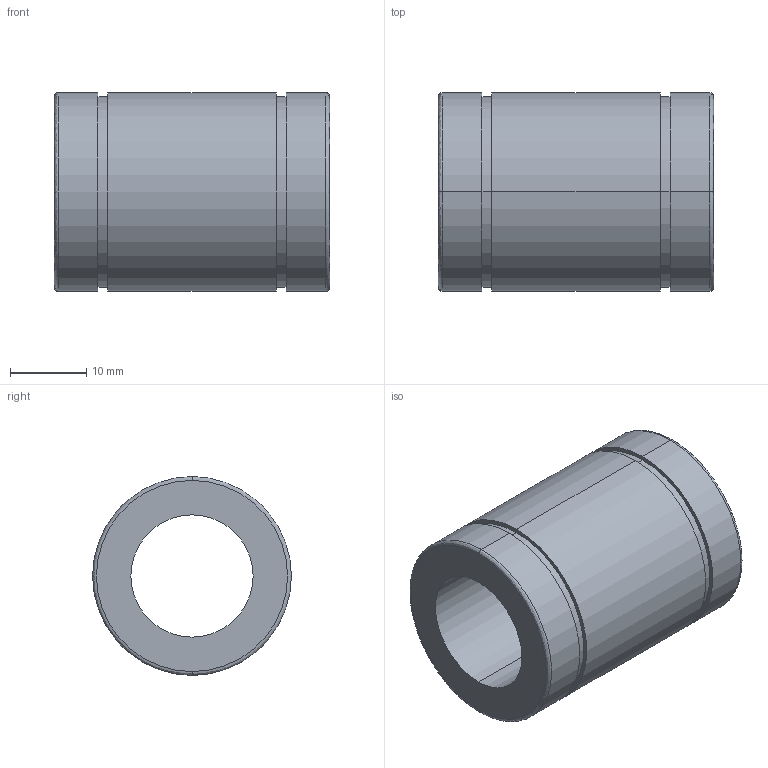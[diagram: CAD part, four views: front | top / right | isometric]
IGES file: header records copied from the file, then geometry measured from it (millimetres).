
Start section: 3D InterOp IGES (Version 21 0 1), Spatial Corp. Copyright (c) 1999-2007.
Global section: file name: SB-16.igs; native system: Spatial Corp.; preprocessor: 3D InterOp GENERIC/IGES 3.0; author: Noname; organization: Noname; date: 20220217.090532; units: millimetre
Bounding box: 36 x 26 x 26 mm (x, y, z)
Surface area: 5541.5 mm2 (no closed solid volume)
Topology: 0 solids, 0 shells, 22 faces, 88 edges, 88 vertices
Faces by surface type: revolution 16, extrusion 6
